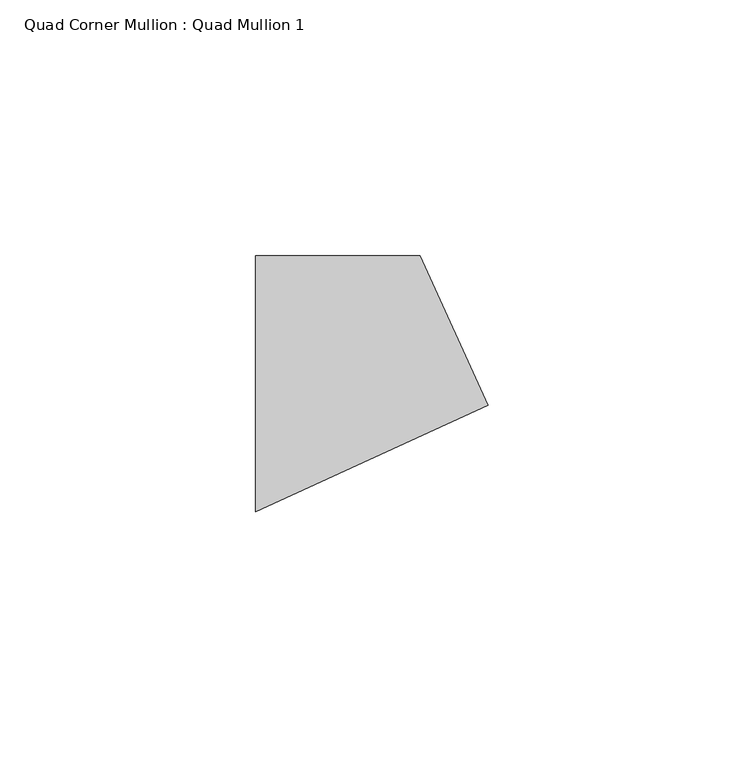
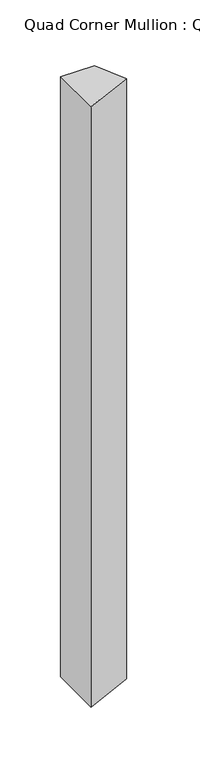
"""IFC4 building model written with IfcOpenShell, lengths in millimetres: member geometry, Quad Corner Mullion : Quad Mullion 1."""

from ifc_helpers import new_model, si_unit, frame, origin, place, context, project, spatial, polyline, outline, extrude, source, transform, mapped, element, save


def quad_corner_mullion_quad_mullion_1_fe8b92fd(model_context):
    return source(origin(), model_context, "Body", "SweptSolid", [
        extrude(outline(polyline([(29.4125559, -4.1926582), (-16.0523154, -25.0), (-16.0523154, 25.0), (16.0523154, 25.0), (29.4125559, -4.1926582)])), frame((0.0, 0.0, -601.6666667), z_axis=(0.0, 0.0, 1.0), x_axis=(1.0, 0.0, 0.0)), (0.0, 0.0, 1.0), 601.6666667),
    ])


if __name__ == "__main__":
    model = new_model("IFC4")
    model_context = context("Model", 3, world=origin())
    ifc_project = project(units=[si_unit("LENGTHUNIT", "METRE", prefix="MILLI")], contexts=[model_context])
    site = spatial("IfcSite", under=ifc_project)
    building = spatial("IfcBuilding", under=site)
    placement = place(None, origin())
    quad_corner_mullion_quad_mullion_1_shape = quad_corner_mullion_quad_mullion_1_fe8b92fd(model_context)
    element("IfcMember", 1, ObjectType="Quad Corner Mullion : Quad Mullion 1", at=placement, inside=building, context=model_context, shape_type="MappedRepresentation", body=[
        mapped(quad_corner_mullion_quad_mullion_1_shape, transform((0.0, 0.0, 0.0), x_axis=(1.0, 0.0, 0.0), y_axis=(0.0, 1.0, 0.0), z_axis=(0.0, 0.0, 1.0))),
    ])
    save(model, "model.ifc")
